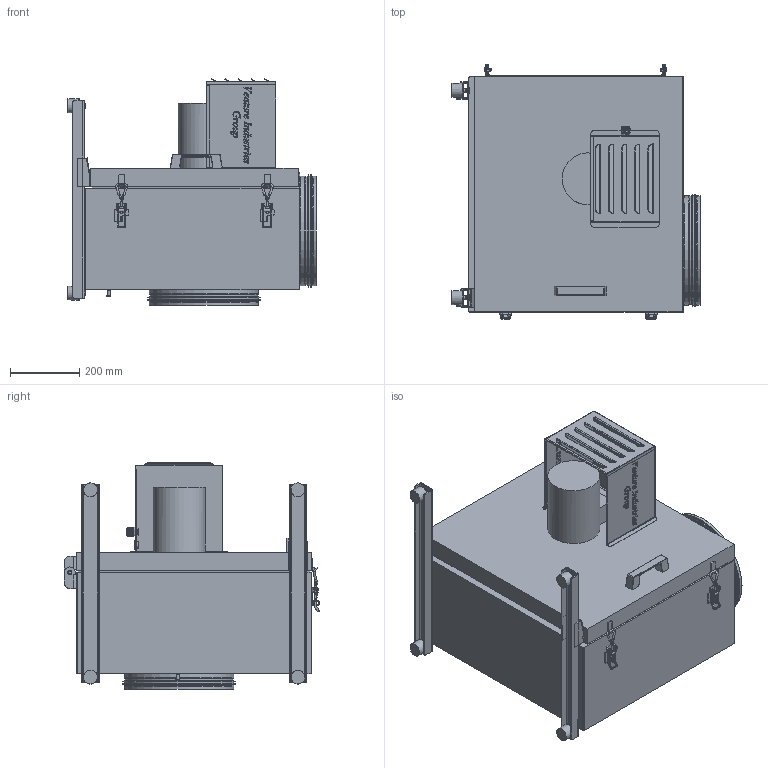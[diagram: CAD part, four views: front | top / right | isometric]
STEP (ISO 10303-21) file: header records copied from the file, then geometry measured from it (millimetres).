
FILE_DESCRIPTION(/* description */ (''),/* implementation_level */ '2;1');
FILE_NAME(/* name */ 'E:\Mariusz\Modele uproszczone\KEF\KEF 315\KEF_2_315_102_XXX 425013075\KEF_2_315_102_XXX 425013075.stp',/* time_stamp */ '2019-07-24T16:34:39+02:00',/* author */ ('M.Janczarek'),/* organization */ (''),/* preprocessor_version */ 'ST-DEVELOPER v16.13',/* originating_system */ 'Autodesk Inventor 2018',/* authorisation */ '');
FILE_SCHEMA (('AUTOMOTIVE_DESIGN { 1 0 10303 214 3 1 1 }'));
Products named in the file (1): KEF_2_315_102_XXX 425013075
Bounding box: 715.5 x 735.5 x 652.66 mm (x, y, z)
Volume: 151100837.7 mm3; surface area: 2889174.1 mm2
Topology: 1 solids, 7 shells, 3406 faces, 9372 edges, 6107 vertices
Faces by surface type: plane 2185, bspline 628, cylinder 393, cone 120, torus 72, sphere 8
Full cylindrical faces by diameter (mm): 3 x8, 5.2 x4, 6 x12, 7 x3, 8 x9, 8.4 x1, 8.6 x8, 9 x1, 9.5 x2, 10 x4, 10.9 x4, 12 x2, 13 x1, 13.5 x1, 15 x1, 16 x6, 20 x4, 20.5 x2, 21 x1, 23 x1, 24 x1, 40.4 x4, 149.9 x1, 306.6 x2, 308 x2, 310.6 x2, 311 x2, 312 x2, 313.6 x4, 314 x4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
Entity records: 116366 total; most frequent: CARTESIAN_POINT 31683, ORIENTED_EDGE 18232, DIRECTION 14878, EDGE_CURVE 9116, VERTEX_POINT 6039, LINE 6032, VECTOR 6032, AXIS2_PLACEMENT_3D 4423
